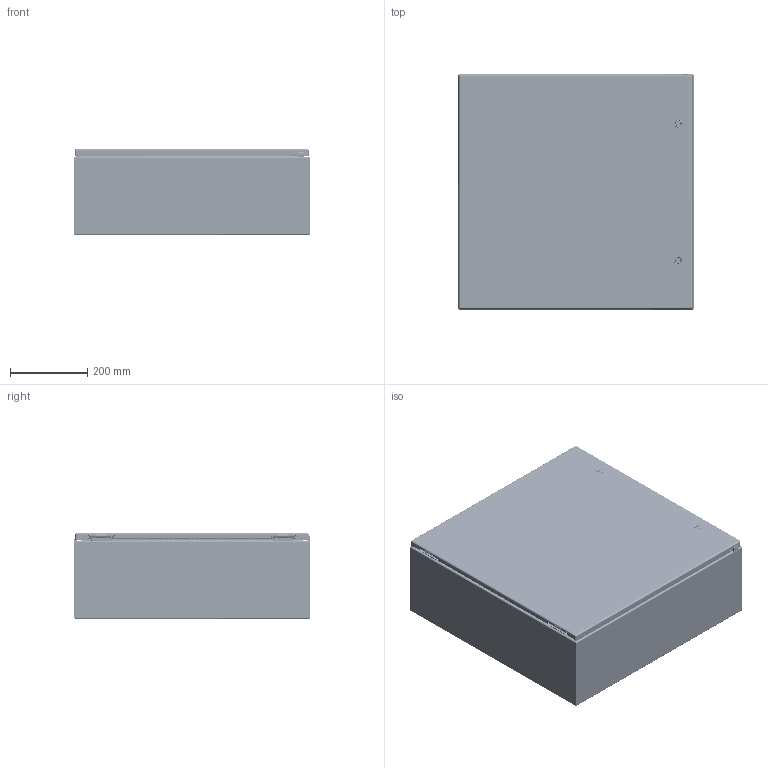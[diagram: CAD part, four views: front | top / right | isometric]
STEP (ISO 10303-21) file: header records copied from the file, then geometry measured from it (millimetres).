
FILE_DESCRIPTION (( 'STEP AP203' ), '1' );
FILE_NAME ('csd24248lgemc.STEP', '2021-02-15T11:31:27', ( '' ), ( '' ), 'SwSTEP 2.0', 'SolidWorks 2016', '' );
FILE_SCHEMA (( 'CONFIG_CONTROL_DESIGN' ));
Length unit declared in the file: inch
Products named in the file (30): 64101001; 64210001; 87758358_default; 87927840_87927840; 64202001; 87409890; 23271001_After Weld; 89131630; 87950931; 87409872; 87936132; 89076193; 87938188; 87543027; csd24248lgemc; 87938214_compressed; 87409881; 99401225; 64201001; 87932266; 87938175_fip; 87938202_compressed; 87938155_assy; 89076399; 87541995; 87938217_compressed; 64203001; 64138001; 87931362_87931362; 87932903
Assembly tree (47 placements, depth 4):
  csd24248lgemc
    87950931
      87758358_default
      99401225
      23271001_After Weld  x4
    87938155_assy
      87938175_fip
        87936132
        87938188
        87931362_87931362  x7
        87409872
        87409881
        87409890  x2
      64101001  x2
        64201001
        87932266
        87541995
        64202001
        64210001
        64203001
        87927840_87927840
      64138001  x2
      87938217_compressed  x2
      87938202_compressed  x3
      87938214_compressed
      87932903  x2
    89076399  x2
      89076193
      89131630
    87543027  x2
Bounding box: 609.6 x 609.9 x 223.04 mm (x, y, z)
Volume: 2344504.2 mm3; surface area: 3202005 mm2
Topology: 51 solids, 51 shells, 10017 faces, 30028 edges, 19686 vertices
Faces by surface type: plane 4953, cylinder 4384, bspline 450, torus 124, cone 98, sphere 8
Entity records: 170023 total; most frequent: CARTESIAN_POINT 39354, ORIENTED_EDGE 28176, DIRECTION 25302, EDGE_CURVE 14088, VERTEX_POINT 9206, LINE 9146, VECTOR 9146, AXIS2_PLACEMENT_3D 8078
